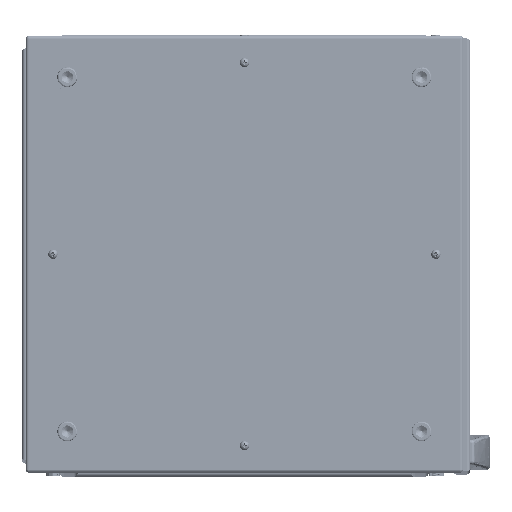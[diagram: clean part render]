
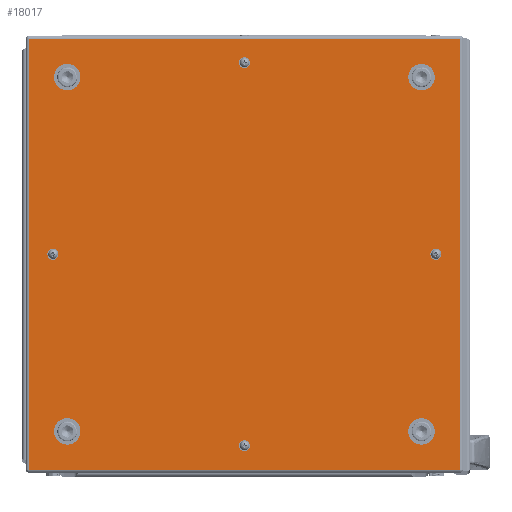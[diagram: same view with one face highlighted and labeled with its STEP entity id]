
A CAD part, top view. The second image highlights one B-rep face of the part: STEP entity #18017.
In plain terms, the highlighted planar face has unit normal (0, 0, 1).
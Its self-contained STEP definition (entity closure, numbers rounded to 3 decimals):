
#18017=ADVANCED_FACE('',(#107450,#107452,#107454,#107456,#107458,#107460,#107462,
#107464,#107466),#107468,.T.);
#107450=FACE_BOUND('',#107451,.T.);
#107451=EDGE_LOOP('',(#177970,#177971,#177972,#177973));
#107452=FACE_BOUND('',#107453,.T.);
#107453=EDGE_LOOP('',(#177974));
#107454=FACE_BOUND('',#107455,.T.);
#107455=EDGE_LOOP('',(#177975));
#107456=FACE_BOUND('',#107457,.T.);
#107457=EDGE_LOOP('',(#177976));
#107458=FACE_BOUND('',#107459,.T.);
#107459=EDGE_LOOP('',(#177977));
#107460=FACE_BOUND('',#107461,.T.);
#107461=EDGE_LOOP('',(#177978));
#107462=FACE_BOUND('',#107463,.T.);
#107463=EDGE_LOOP('',(#177979));
#107464=FACE_BOUND('',#107465,.T.);
#107465=EDGE_LOOP('',(#177980));
#107466=FACE_BOUND('',#107467,.T.);
#107467=EDGE_LOOP('',(#177981));
#107468=PLANE('',#107469);
#107469=AXIS2_PLACEMENT_3D('',#107470,#107471,#107472);
#107470=CARTESIAN_POINT('',(0.,0.,1.5));
#107471=DIRECTION('',(0.,0.,1.));
#107472=DIRECTION('',(0.,1.,0.));
#177970=ORIENTED_EDGE('',*,*,#210170,.T.);
#177971=ORIENTED_EDGE('',*,*,#210171,.T.);
#177972=ORIENTED_EDGE('',*,*,#210172,.T.);
#177973=ORIENTED_EDGE('',*,*,#210173,.T.);
#177974=ORIENTED_EDGE('',*,*,#210149,.T.);
#177975=ORIENTED_EDGE('',*,*,#210148,.T.);
#177976=ORIENTED_EDGE('',*,*,#210143,.T.);
#177977=ORIENTED_EDGE('',*,*,#210144,.T.);
#177978=ORIENTED_EDGE('',*,*,#210145,.T.);
#177979=ORIENTED_EDGE('',*,*,#210146,.T.);
#177980=ORIENTED_EDGE('',*,*,#210142,.T.);
#177981=ORIENTED_EDGE('',*,*,#210141,.T.);
#210141=EDGE_CURVE('',#256058,#256058,#256059,.F.);
#210142=EDGE_CURVE('',#256060,#256060,#256061,.F.);
#210143=EDGE_CURVE('',#256062,#256062,#256063,.F.);
#210144=EDGE_CURVE('',#256064,#256064,#256065,.F.);
#210145=EDGE_CURVE('',#256066,#256066,#256067,.F.);
#210146=EDGE_CURVE('',#256068,#256068,#256069,.F.);
#210148=EDGE_CURVE('',#256072,#256072,#256073,.F.);
#210149=EDGE_CURVE('',#256074,#256074,#256075,.F.);
#210170=EDGE_CURVE('',#256112,#256113,#256114,.T.);
#210171=EDGE_CURVE('',#256113,#256115,#256116,.T.);
#210172=EDGE_CURVE('',#256115,#256117,#256118,.T.);
#210173=EDGE_CURVE('',#256117,#256112,#256119,.T.);
#256058=VERTEX_POINT('',#360893);
#256059=CIRCLE('',#360894,3.75);
#256060=VERTEX_POINT('',#360898);
#256061=CIRCLE('',#360899,3.75);
#256062=VERTEX_POINT('',#360903);
#256063=CIRCLE('',#360904,7.);
#256064=VERTEX_POINT('',#360908);
#256065=CIRCLE('',#360909,7.);
#256066=VERTEX_POINT('',#360913);
#256067=CIRCLE('',#360914,7.);
#256068=VERTEX_POINT('',#360918);
#256069=CIRCLE('',#360919,7.);
#256072=VERTEX_POINT('',#360928);
#256073=CIRCLE('',#360929,3.75);
#256074=VERTEX_POINT('',#360933);
#256075=CIRCLE('',#360934,3.75);
#256112=VERTEX_POINT('',#361142);
#256113=VERTEX_POINT('',#361143);
#256114=LINE('',#361144,#361145);
#256115=VERTEX_POINT('',#361147);
#256116=LINE('',#361148,#361149);
#256117=VERTEX_POINT('',#361151);
#256118=LINE('',#361152,#361153);
#256119=LINE('',#361155,#361156);
#360893=CARTESIAN_POINT('',(173.5,3.75,1.5));
#360894=AXIS2_PLACEMENT_3D('',#360895,#360896,#360897);
#360895=CARTESIAN_POINT('',(173.5,0.,1.5));
#360896=DIRECTION('',(0.,0.,1.));
#360897=DIRECTION('',(0.,1.,0.));
#360898=CARTESIAN_POINT('',(-173.5,3.75,1.5));
#360899=AXIS2_PLACEMENT_3D('',#360900,#360901,#360902);
#360900=CARTESIAN_POINT('',(-173.5,0.,1.5));
#360901=DIRECTION('',(0.,0.,1.));
#360902=DIRECTION('',(0.,1.,0.));
#360903=CARTESIAN_POINT('',(160.5,-153.5,1.5));
#360904=AXIS2_PLACEMENT_3D('',#360905,#360906,#360907);
#360905=CARTESIAN_POINT('',(160.5,-160.5,1.5));
#360906=DIRECTION('',(0.,0.,1.));
#360907=DIRECTION('',(0.,1.,0.));
#360908=CARTESIAN_POINT('',(-160.5,167.5,1.5));
#360909=AXIS2_PLACEMENT_3D('',#360910,#360911,#360912);
#360910=CARTESIAN_POINT('',(-160.5,160.5,1.5));
#360911=DIRECTION('',(0.,0.,1.));
#360912=DIRECTION('',(0.,1.,0.));
#360913=CARTESIAN_POINT('',(-160.5,-153.5,1.5));
#360914=AXIS2_PLACEMENT_3D('',#360915,#360916,#360917);
#360915=CARTESIAN_POINT('',(-160.5,-160.5,1.5));
#360916=DIRECTION('',(0.,0.,1.));
#360917=DIRECTION('',(0.,1.,0.));
#360918=CARTESIAN_POINT('',(160.5,167.5,1.5));
#360919=AXIS2_PLACEMENT_3D('',#360920,#360921,#360922);
#360920=CARTESIAN_POINT('',(160.5,160.5,1.5));
#360921=DIRECTION('',(0.,0.,1.));
#360922=DIRECTION('',(0.,1.,0.));
#360928=CARTESIAN_POINT('',(0.,177.25,1.5));
#360929=AXIS2_PLACEMENT_3D('',#360930,#360931,#360932);
#360930=CARTESIAN_POINT('',(0.,173.5,1.5));
#360931=DIRECTION('',(0.,0.,1.));
#360932=DIRECTION('',(0.,1.,0.));
#360933=CARTESIAN_POINT('',(0.,-169.75,1.5));
#360934=AXIS2_PLACEMENT_3D('',#360935,#360936,#360937);
#360935=CARTESIAN_POINT('',(0.,-173.5,1.5));
#360936=DIRECTION('',(0.,0.,1.));
#360937=DIRECTION('',(0.,1.,0.));
#361142=CARTESIAN_POINT('',(195.2,195.2,1.5));
#361143=CARTESIAN_POINT('',(-195.2,195.2,1.5));
#361144=CARTESIAN_POINT('',(195.2,195.2,1.5));
#361145=VECTOR('',#361146,1.);
#361146=DIRECTION('',(-1.,0.,0.));
#361147=CARTESIAN_POINT('',(-195.2,-195.2,1.5));
#361148=CARTESIAN_POINT('',(-195.2,195.2,1.5));
#361149=VECTOR('',#361150,1.);
#361150=DIRECTION('',(0.,-1.,0.));
#361151=CARTESIAN_POINT('',(195.2,-195.2,1.5));
#361152=CARTESIAN_POINT('',(-195.2,-195.2,1.5));
#361153=VECTOR('',#361154,1.);
#361154=DIRECTION('',(1.,0.,0.));
#361155=CARTESIAN_POINT('',(195.2,-195.2,1.5));
#361156=VECTOR('',#361157,1.);
#361157=DIRECTION('',(0.,1.,0.));
